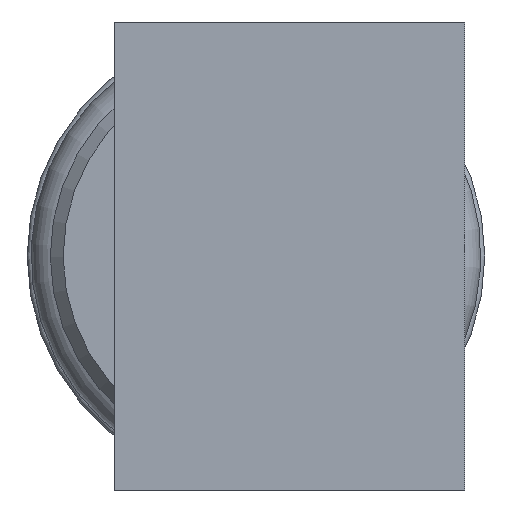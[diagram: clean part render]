
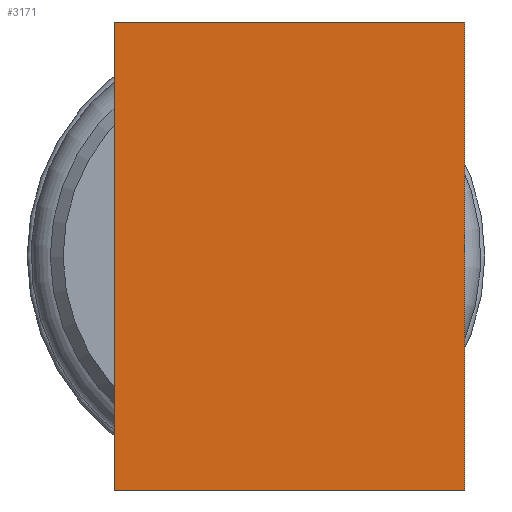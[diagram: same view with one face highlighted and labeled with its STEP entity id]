
A CAD part, left-side view. The second image highlights one B-rep face of the part: STEP entity #3171.
In plain terms, the highlighted planar face has unit normal (-1, 0, 0).
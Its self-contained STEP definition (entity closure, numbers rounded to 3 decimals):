
#222 = ORIENTED_EDGE ( 'NONE', *, *, #3335, .F. ) ;
#249 = CARTESIAN_POINT ( 'NONE',  ( -175., -179.63, -15. ) ) ;
#310 = ORIENTED_EDGE ( 'NONE', *, *, #1530, .T. ) ;
#324 = DIRECTION ( 'NONE',  ( 0., 1., 0. ) ) ;
#359 = CARTESIAN_POINT ( 'NONE',  ( -175., -12.5, -9.1 ) ) ;
#384 = VECTOR ( 'NONE', #3039, 1000. ) ;
#565 = DIRECTION ( 'NONE',  ( 0., -1., 0. ) ) ;
#567 = ORIENTED_EDGE ( 'NONE', *, *, #2748, .T. ) ;
#673 = LINE ( 'NONE', #2618, #1578 ) ;
#721 = AXIS2_PLACEMENT_3D ( 'NONE', #249, #1913, #565 ) ;
#921 = VERTEX_POINT ( 'NONE', #2620 ) ;
#1086 = LINE ( 'NONE', #1585, #384 ) ;
#1149 = CARTESIAN_POINT ( 'NONE',  ( -175., 5.5, -9.1 ) ) ;
#1166 = LINE ( 'NONE', #3024, #2089 ) ;
#1372 = VERTEX_POINT ( 'NONE', #1149 ) ;
#1530 = EDGE_CURVE ( 'NONE', #3606, #921, #1086, .T. ) ;
#1578 = VECTOR ( 'NONE', #3182, 1000. ) ;
#1585 = CARTESIAN_POINT ( 'NONE',  ( -175., -12.5, 9.1 ) ) ;
#1890 = EDGE_LOOP ( 'NONE', ( #222, #567, #310, #3138 ) ) ;
#1913 = DIRECTION ( 'NONE',  ( -1., 0., 0. ) ) ;
#1924 = PLANE ( 'NONE',  #721 ) ;
#2089 = VECTOR ( 'NONE', #2184, 1000. ) ;
#2184 = DIRECTION ( 'NONE',  ( 0., 0., 1. ) ) ;
#2376 = EDGE_CURVE ( 'NONE', #1372, #921, #1166, .T. ) ;
#2541 = CARTESIAN_POINT ( 'NONE',  ( -175., -8.113, -9.1 ) ) ;
#2618 = CARTESIAN_POINT ( 'NONE',  ( -175., -8.113, -15. ) ) ;
#2620 = CARTESIAN_POINT ( 'NONE',  ( -175., 5.5, 9.1 ) ) ;
#2711 = VERTEX_POINT ( 'NONE', #2541 ) ;
#2748 = EDGE_CURVE ( 'NONE', #2711, #3606, #673, .T. ) ;
#2785 = FACE_OUTER_BOUND ( 'NONE', #1890, .T. ) ;
#2944 = CARTESIAN_POINT ( 'NONE',  ( -175., -8.113, 9.1 ) ) ;
#3024 = CARTESIAN_POINT ( 'NONE',  ( -175., 5.5, -15. ) ) ;
#3039 = DIRECTION ( 'NONE',  ( 0., 1., 0. ) ) ;
#3138 = ORIENTED_EDGE ( 'NONE', *, *, #2376, .F. ) ;
#3171 = ADVANCED_FACE ( 'NONE', ( #2785 ), #1924, .T. ) ;
#3182 = DIRECTION ( 'NONE',  ( 0., 0., 1. ) ) ;
#3278 = LINE ( 'NONE', #359, #3316 ) ;
#3316 = VECTOR ( 'NONE', #324, 1000. ) ;
#3335 = EDGE_CURVE ( 'NONE', #2711, #1372, #3278, .T. ) ;
#3606 = VERTEX_POINT ( 'NONE', #2944 ) ;
